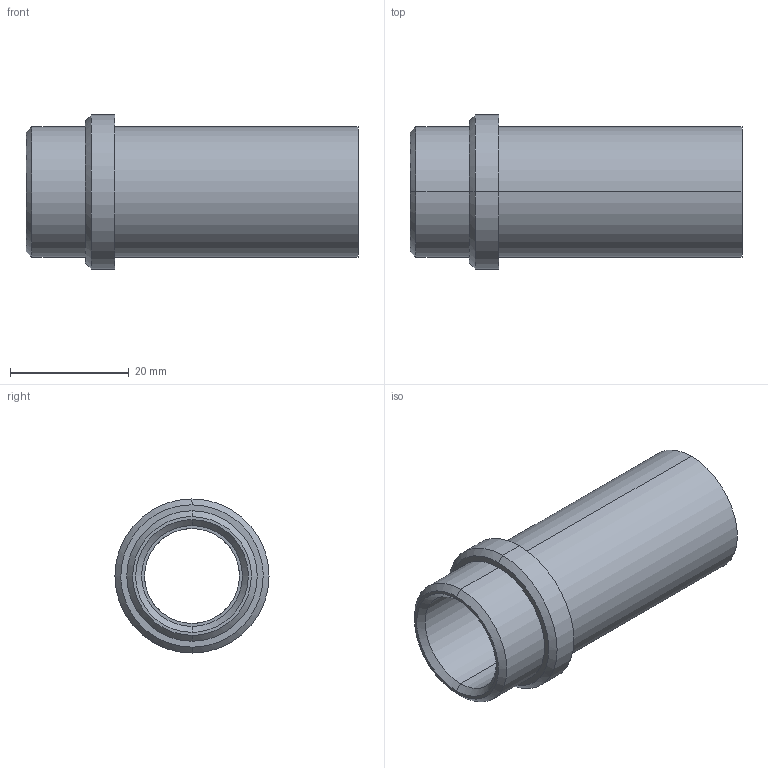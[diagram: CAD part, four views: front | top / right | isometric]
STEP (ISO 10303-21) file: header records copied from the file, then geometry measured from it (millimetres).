
FILE_DESCRIPTION(('CATIA V5 STEP Exchange'),'2;1');
FILE_NAME('C:\Users\Utente\Desktop\IO LAVORO\3D X SITO CF\X SITO\PLASTICA\358\358-16x56.stp','2021-04-08T13:54:45+00:00',('none'),('none'),'CATIA Version 5 Release 20 GA (IN-10)','CATIA V5 STEP AP203','none');
FILE_SCHEMA(('CONFIG_CONTROL_DESIGN'));
Length unit declared in the file: millimetre
Products named in the file (1): 358-16X56
Bounding box: 56 x 26 x 26 mm (x, y, z)
Volume: 10013.3 mm3; surface area: 7321 mm2
Topology: 1 solids, 1 shells, 23 faces, 74 edges, 56 vertices
Faces by surface type: cylinder 10, cone 6, plane 5, torus 2
Entity records: 1066 total; most frequent: CARTESIAN_POINT 378, ORIENTED_EDGE 148, DIRECTION 104, EDGE_CURVE 74, AXIS2_PLACEMENT_3D 66, VERTEX_POINT 56, CIRCLE 42, EDGE_LOOP 28
